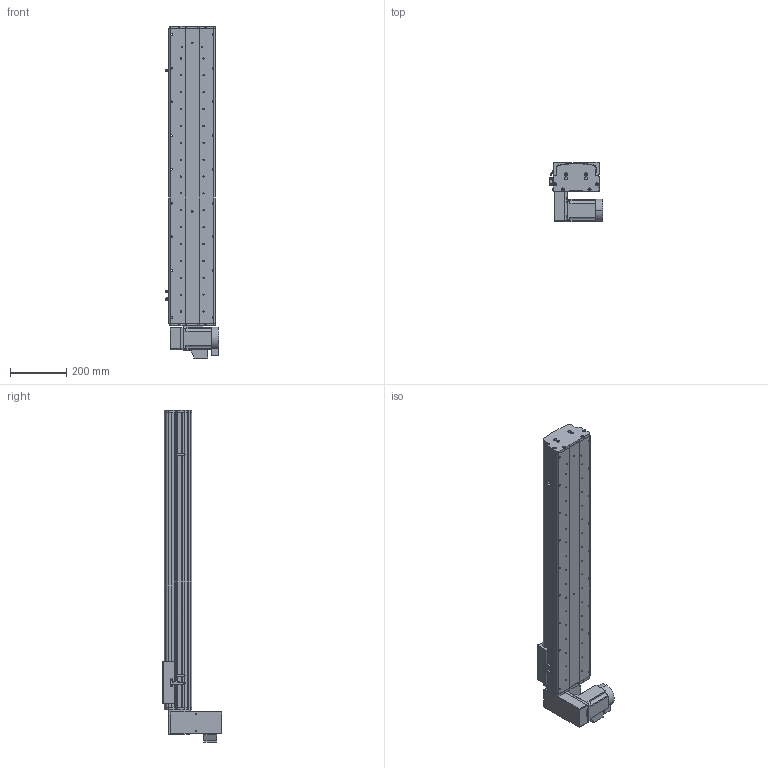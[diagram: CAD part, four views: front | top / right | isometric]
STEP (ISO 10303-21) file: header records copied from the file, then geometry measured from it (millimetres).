
FILE_DESCRIPTION (( 'STEP AP214' ), '1' );
FILE_NAME ('KSD165B-S800-MLD-CM.STEP', '2017-10-16T07:05:21', ( '微软用户' ), ( '微软中国' ), 'SwSTEP 2.0', 'SolidWorks 2014', '' );
FILE_SCHEMA (( 'AUTOMOTIVE_DESIGN' ));
Length unit declared in the file: millimetre
Products named in the file (17): 拸秶雄ん750W侜督萇儂; U倰嫖萇假蚾璃; U倰嫖萇EEㄜSX672; 覜茼え68遵圉猾敕; KSD165模组-同步带-防撞垫2; KSD165模组同步带-防撞垫1; KSD165耀郪-ヶ傷啣1-肮祭湍; KSD165模组-后端板1-同步带; KSD165模组-同步带滑动座-最新版; KSD165B-S800-MLD-CM; 130宽模组马达安装板连板上下折丝杆同步带; 130宽模组保护罩上下左右折-同步带; HTPA26S5M250-A-H8 750W萇儂蚚; HTPA26S5M250-A-H8 400W萇儂蚚 ; 165宽马达安装板同步带左-改; KSD165模组-同步带防尘盖1-800行程-最新版; KSD165模组同步带底板-800行程-最新
Assembly tree (20 placements, depth 2):
  KSD165B-S800-MLD-CM
    KSD165模组-同步带滑动座-最新版
    KSD165模组-后端板1-同步带
    KSD165耀郪-ヶ傷啣1-肮祭湍
    KSD165模组同步带-防撞垫1
    KSD165模组-同步带-防撞垫2
    覜茼え68遵圉猾敕
    U倰嫖萇EEㄜSX672  x3
    U倰嫖萇假蚾璃  x3
    拸秶雄ん750W侜督萇儂
    KSD165模组同步带底板-800行程-最新
    KSD165模组-同步带防尘盖1-800行程-最新版
    165宽马达安装板同步带左-改
    HTPA26S5M250-A-H8 400W萇儂蚚 
    HTPA26S5M250-A-H8 750W萇儂蚚
    130宽模组保护罩上下左右折-同步带
    130宽模组马达安装板连板上下折丝杆同步带
Bounding box: 191.2 x 210 x 1181 mm (x, y, z)
Volume: 7015504.2 mm3; surface area: 1628495.9 mm2
Topology: 21 solids, 22 shells, 1943 faces, 5478 edges, 3576 vertices
Faces by surface type: cylinder 1245, plane 586, cone 112
Entity records: 62864 total; most frequent: CARTESIAN_POINT 12882, DIRECTION 10350, ORIENTED_EDGE 9616, EDGE_CURVE 4808, AXIS2_PLACEMENT_3D 4058, VERTEX_POINT 3168, CIRCLE 2312, VECTOR 2234
